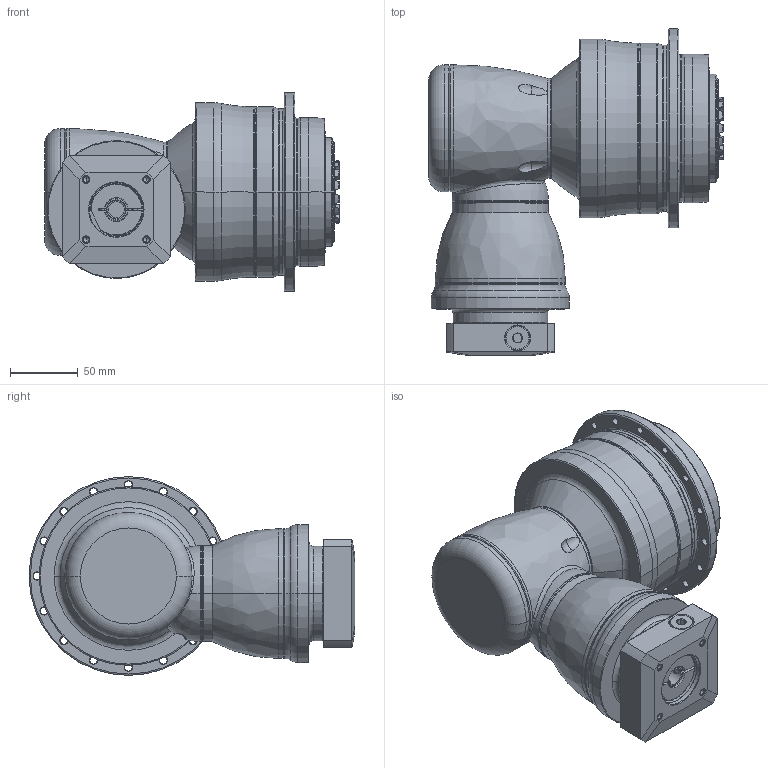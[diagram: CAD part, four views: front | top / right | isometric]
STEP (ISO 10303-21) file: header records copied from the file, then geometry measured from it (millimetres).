
FILE_DESCRIPTION((''),'2;1');
FILE_NAME('APCK110_3ST_14-P0409320201_ASM','2018-05-11T',('d01226'),(''),'PRO/ENGINEER BY PARAMETRIC TECHNOLOGY CORPORATION, 2008410','PRO/ENGINEER BY PARAMETRIC TECHNOLOGY CORPORATION, 2008410','');
FILE_SCHEMA(('CONFIG_CONTROL_DESIGN'));
Length unit declared in the file: millimetre
Products named in the file (13): P1008300002; P1832400001; P0278401003; P03594C0103; P1211400001; P1315300001; P1007301001; P1318310101; P0409320201; P0503300006; P0129351001; 21711412017; APCK110_3ST_14-P0409320201_ASM
Assembly tree (12 placements, depth 2):
  APCK110_3ST_14-P0409320201_ASM
    P1008300002
    P1832400001
    P0278401003
    P03594C0103
    P1211400001
    P1315300001
    P1007301001
    P1318310101
    P0409320201
    P0503300006
    P0129351001
    21711412017
Bounding box: 217.9 x 241 x 147 mm (x, y, z)
Volume: 2583335 mm3; surface area: 332645.9 mm2
Topology: 13 solids, 23 shells, 673 faces, 1584 edges, 964 vertices
Faces by surface type: cylinder 213, cone 186, plane 130, torus 113, bspline 29, sphere 2
Entity records: 23429 total; most frequent: CARTESIAN_POINT 7602, DIRECTION 3550, ORIENTED_EDGE 3074, AXIS2_PLACEMENT_3D 1560, EDGE_CURVE 1558, VERTEX_POINT 958, CIRCLE 881, EDGE_LOOP 766
